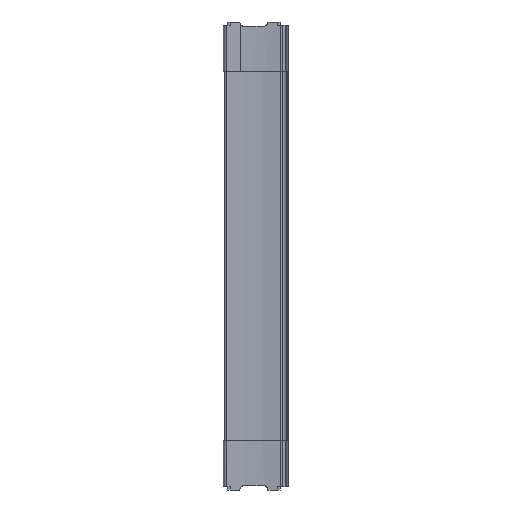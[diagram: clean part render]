
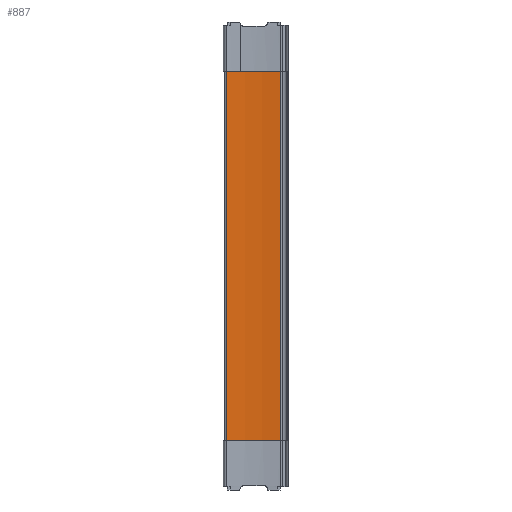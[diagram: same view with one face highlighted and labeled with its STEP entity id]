
A CAD part, left-side view. The second image highlights one B-rep face of the part: STEP entity #887.
In plain terms, the highlighted cylindrical face has radius 250 mm (diameter 500 mm), a partial arc.
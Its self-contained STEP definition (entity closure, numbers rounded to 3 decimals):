
#106 = CIRCLE ( 'NONE', #2187, 250. ) ;
#109 = CIRCLE ( 'NONE', #2191, 250. ) ;
#111 = VECTOR ( 'NONE', #4057, 1000. ) ;
#118 = LINE ( 'NONE', #4056, #111 ) ;
#296 = LINE ( 'NONE', #523, #303 ) ;
#303 = VECTOR ( 'NONE', #541, 1000. ) ;
#523 = CARTESIAN_POINT ( 'NONE',  ( -5.747, 63.571, 197. ) ) ;
#541 = DIRECTION ( 'NONE',  ( 0., 0., -1. ) ) ;
#746 = AXIS2_PLACEMENT_3D ( 'NONE', #2811, #2810, #2809 ) ;
#887 = ADVANCED_FACE ( 'NONE', ( #2114 ), #2032, .F. ) ;
#1080 = ORIENTED_EDGE ( 'NONE', *, *, #3709, .F. ) ;
#1150 = ORIENTED_EDGE ( 'NONE', *, *, #3710, .F. ) ;
#1151 = ORIENTED_EDGE ( 'NONE', *, *, #3711, .F. ) ;
#1155 = ORIENTED_EDGE ( 'NONE', *, *, #3589, .T. ) ;
#1498 = EDGE_LOOP ( 'NONE', ( #1151, #1150, #1080, #1155 ) ) ;
#2032 = CYLINDRICAL_SURFACE ( 'NONE', #746, 250. ) ;
#2114 = FACE_OUTER_BOUND ( 'NONE', #1498, .T. ) ;
#2187 = AXIS2_PLACEMENT_3D ( 'NONE', #4058, #4060, #4061 ) ;
#2191 = AXIS2_PLACEMENT_3D ( 'NONE', #4048, #4053, #4054 ) ;
#2343 = VERTEX_POINT ( 'NONE', #3223 ) ;
#2353 = VERTEX_POINT ( 'NONE', #3233 ) ;
#2450 = VERTEX_POINT ( 'NONE', #3239 ) ;
#2451 = VERTEX_POINT ( 'NONE', #3240 ) ;
#2809 = DIRECTION ( 'NONE',  ( -1., 0., 0. ) ) ;
#2810 = DIRECTION ( 'NONE',  ( 0., 0., -1. ) ) ;
#2811 = CARTESIAN_POINT ( 'NONE',  ( -255.319, 48.963, 197. ) ) ;
#3223 = CARTESIAN_POINT ( 'NONE',  ( -5.747, 63.571, 191. ) ) ;
#3233 = CARTESIAN_POINT ( 'NONE',  ( -5.747, 63.571, -191. ) ) ;
#3239 = CARTESIAN_POINT ( 'NONE',  ( -8.643, 8.331, -191. ) ) ;
#3240 = CARTESIAN_POINT ( 'NONE',  ( -8.643, 8.331, 191. ) ) ;
#3589 = EDGE_CURVE ( 'NONE', #2343, #2353, #296, .T. ) ;
#3709 = EDGE_CURVE ( 'NONE', #2343, #2451, #109, .T. ) ;
#3710 = EDGE_CURVE ( 'NONE', #2451, #2450, #118, .T. ) ;
#3711 = EDGE_CURVE ( 'NONE', #2450, #2353, #106, .T. ) ;
#4048 = CARTESIAN_POINT ( 'NONE',  ( -255.319, 48.963, 191. ) ) ;
#4053 = DIRECTION ( 'NONE',  ( 0., 0., -1. ) ) ;
#4054 = DIRECTION ( 'NONE',  ( 1., 0., 0. ) ) ;
#4056 = CARTESIAN_POINT ( 'NONE',  ( -8.643, 8.331, 197. ) ) ;
#4057 = DIRECTION ( 'NONE',  ( 0., 0., -1. ) ) ;
#4058 = CARTESIAN_POINT ( 'NONE',  ( -255.319, 48.963, -191. ) ) ;
#4060 = DIRECTION ( 'NONE',  ( 0., 0., 1. ) ) ;
#4061 = DIRECTION ( 'NONE',  ( -1., 0., 0. ) ) ;
